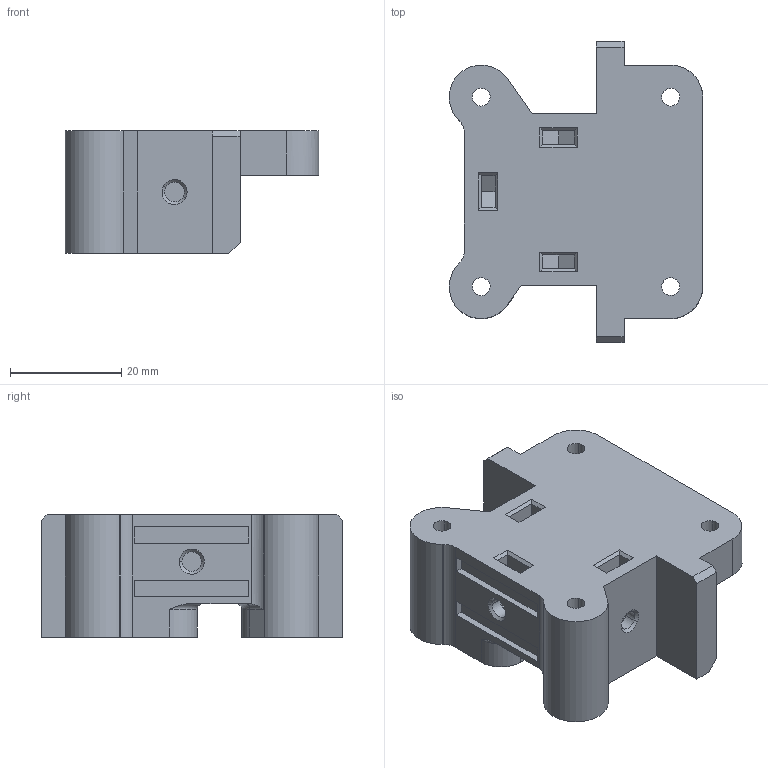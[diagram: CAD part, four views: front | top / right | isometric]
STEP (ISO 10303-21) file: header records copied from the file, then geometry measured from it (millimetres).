
FILE_DESCRIPTION(('CATIA V5 STEP Exchange'),'2;1');
FILE_NAME('E:\Dropbox\3D Printer Fan Duct Designs\1.) Artillery Sidewinder X1\3D Models\5015 Double Ducts\HEMERA MATRIX\COMMON PARTS\Removable extruder support_Nut.stp','2022-01-08T15:52:31+00:00',('none'),('none'),'CATIA Version 5 Release 20 SP 1 (IN-10)','CATIA V5 STEP AP214','none');
FILE_SCHEMA(('AUTOMOTIVE_DESIGN { 1 0 10303 214 1 1 1 1 }'));
Length unit declared in the file: millimetre
Products named in the file (1): Soporte_extraible_extrusor_MOD
Bounding box: 45.48 x 54 x 22 mm (x, y, z)
Volume: 26006 mm3; surface area: 9952 mm2
Topology: 1 solids, 1 shells, 152 faces, 370 edges, 232 vertices
Faces by surface type: plane 79, cylinder 42, cone 28, torus 3
Entity records: 4211 total; most frequent: CARTESIAN_POINT 771, ORIENTED_EDGE 740, DIRECTION 593, EDGE_CURVE 370, VECTOR 240, LINE 240, AXIS2_PLACEMENT_3D 233, VERTEX_POINT 232
